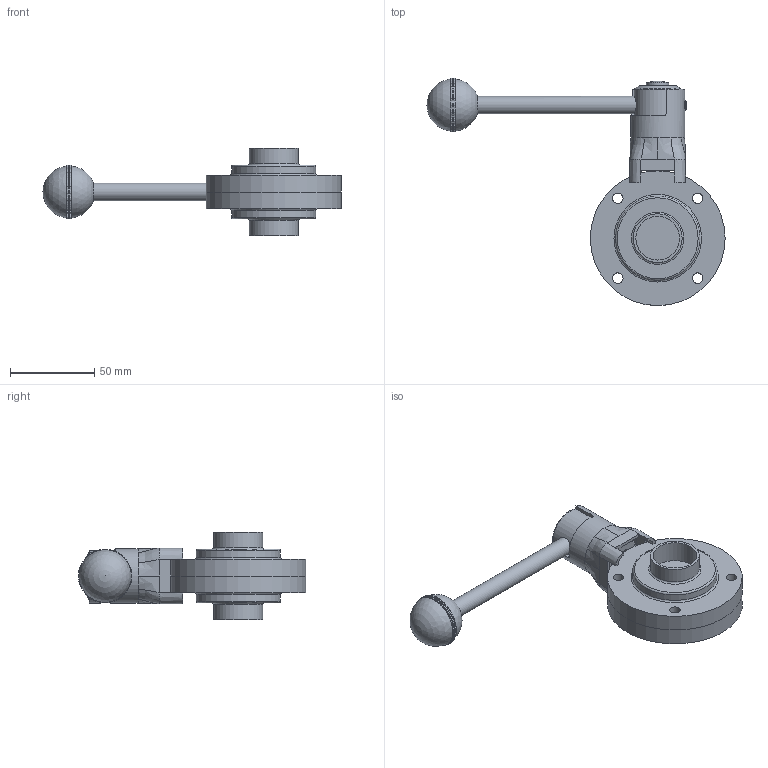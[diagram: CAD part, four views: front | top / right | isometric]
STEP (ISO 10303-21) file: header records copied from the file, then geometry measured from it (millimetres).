
FILE_DESCRIPTION(/* description */ ('VVF VALV.FARF.DN25 (29X1.5) SS EPDM 316 LEVA INOX 3POS.'),/* implementation_level */ '2;1');
FILE_NAME(/* name */ 'C:\_DED_PWS\ZIGN-L\DB\B\EBA\BEBACG025BEBV-00^SAGOMA.step',/* time_stamp */ '2022-06-14T17:20:10+02:00',/* author */ (''),/* organization */ (''),/* preprocessor_version */ 'ST-DEVELOPER v18.1',/* originating_system */ 'Autodesk Inventor 2022',/* authorisation */ '');
FILE_SCHEMA (('CONFIG_CONTROL_DESIGN'));
Length unit declared in the file: millimetre
Products named in the file (3): BEBACG025BEBV; TNU430065AAA; TWD006025BBA
Assembly tree (3 placements, depth 2):
  BEBACG025BEBV
    TNU430065AAA
    TWD006025BBA  x2
Bounding box: 177.01 x 134.93 x 52 mm (x, y, z)
Volume: 175526.1 mm3; surface area: 57614.7 mm2
Topology: 4 solids, 5 shells, 537 faces, 1318 edges, 869 vertices
Faces by surface type: plane 351, torus 85, cylinder 52, bspline 38, cone 9, sphere 2
Full cylindrical faces by diameter (mm): 6 x2, 6.2 x8, 6.5 x3, 9 x3, 9.3 x1, 10 x1, 10.4 x1, 10.5 x1, 11 x1, 11.1 x1, 11.4 x2, 13.4 x1, 15 x1, 15.2 x1, 26 x2, 27.8 x1, 28.4 x1, 29 x2, 32.2 x1, 50 x2, 80 x2
Entity records: 26398 total; most frequent: CARTESIAN_POINT 13608, ORIENTED_EDGE 2564, DIRECTION 2553, EDGE_CURVE 1282, AXIS2_PLACEMENT_3D 1063, VERTEX_POINT 847, EDGE_LOOP 621, CIRCLE 574
